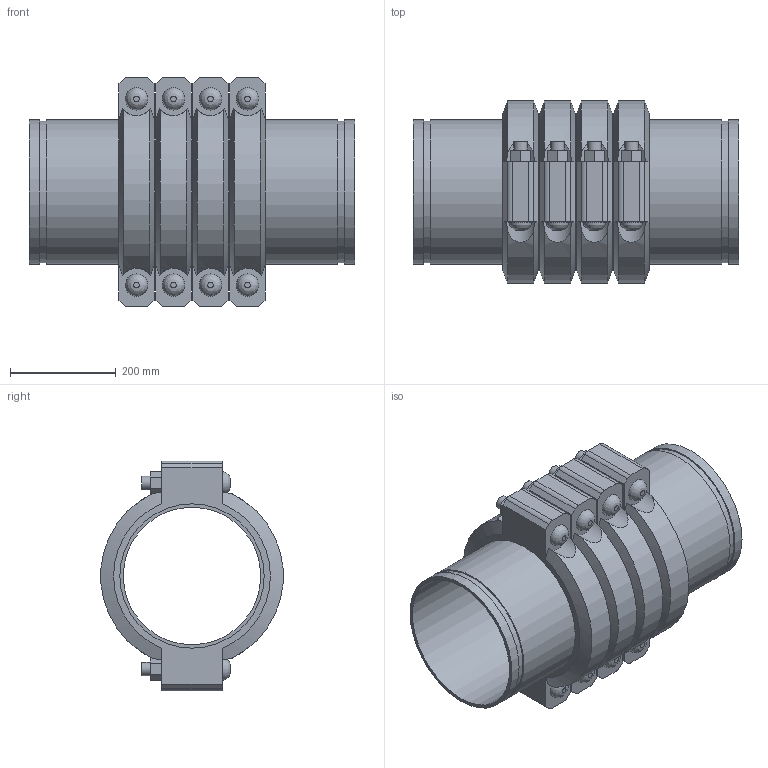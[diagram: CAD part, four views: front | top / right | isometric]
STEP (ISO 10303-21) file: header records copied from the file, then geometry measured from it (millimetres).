
FILE_DESCRIPTION(/* description */ ('VIC EXPANSION JOINT 4 COUPLINGS COMPRESSED STYLE 155 (OGS)','CAx-IF Rec.Pracs.---Representation and Presentation of Product Manufacturing Information (PMI)---4.0---2014-10-13'),/* implementation_level */ '2;1');
FILE_NAME(/* name */ 'C:\Users\kkamble\AppData\Roaming\Autodesk\ApplicationPlugins\Victaulic.Temp\A318\Victaulic_IPS_Expansion Joint_Compressed_4 Couplings_Style 155 (OGS)_10 (250).stp',/* time_stamp */ '2021-06-27T00:28:05+02:00',/* author */ ('kkamble'),/* organization */ ('Victaulic'),/* preprocessor_version */ 'ST-DEVELOPER v17.2',/* originating_system */ 'Autodesk Inventor 2019',/* authorisation */ '');
FILE_SCHEMA (('AP242_MANAGED_MODEL_BASED_3D_ENGINEERING_MIM_LF { 1 0 10303 442 1 1 4 }'));
Length unit declared in the file: inch
Products named in the file (4): 155-10.0; Nipple-10.0; Nipple-10.0_1; 077-4 Coup-10.0
Assembly tree (9 placements, depth 2):
  155-10.0
    Nipple-10.0  x2
    Nipple-10.0_1  x3
    077-4 Coup-10.0  x4
Bounding box: 615.95 x 344.9 x 435.1 mm (x, y, z)
Volume: 14700521 mm3; surface area: 2238632.7 mm2
Topology: 9 solids, 17 shells, 304 faces, 730 edges, 512 vertices
Faces by surface type: plane 174, cylinder 106, cone 16, bspline 8
Full cylindrical faces by diameter (mm): 25.4 x16, 27.432 x8, 260.35 x5, 264.16 x4, 268.275 x10, 273.05 x23
Entity records: 3066 total; most frequent: CARTESIAN_POINT 673, DIRECTION 473, ORIENTED_EDGE 410, EDGE_CURVE 205, AXIS2_PLACEMENT_3D 192, VERTEX_POINT 146, EDGE_LOOP 111, CIRCLE 96
